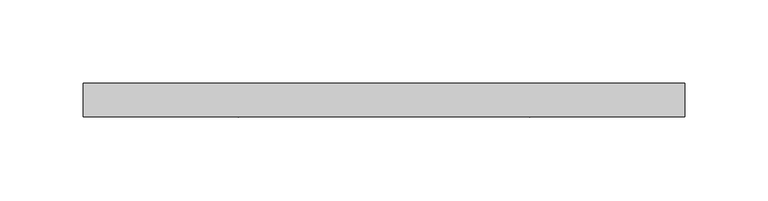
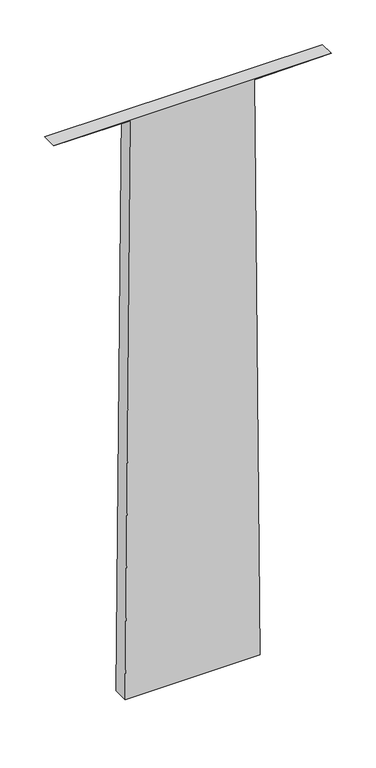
"""IFC4 building model written with IfcOpenShell, lengths in millimetres: plate geometry, 空系统嵌板 : 空."""

from ifc_helpers import new_model, si_unit, frame, origin, place, context, project, spatial, polyline, outline, extrude, source, transform, mapped, element, save


def plate_9638d80c(model_context):
    return source(origin(), model_context, "Body", "SweptSolid", [
        extrude(outline(polyline([(0.0, -87.1884082), (0.0, 87.1884082), (789.1697046, 80.0065796), (790.0797156, 180.0024389), (790.0797156, -180.0024389), (789.1697046, -80.0065796), (0.0, -87.1884082)])), frame((0.0, -10.0, 0.0), z_axis=(0.0, 1.0, 0.0), x_axis=(0.0, 0.0, 1.0)), (0.0, 0.0, 1.0), 20.0),
    ])


if __name__ == "__main__":
    model = new_model("IFC4")
    model_context = context("Model", 3, world=origin())
    ifc_project = project(units=[si_unit("LENGTHUNIT", "METRE", prefix="MILLI")], contexts=[model_context])
    site = spatial("IfcSite", under=ifc_project)
    building = spatial("IfcBuilding", under=site)
    placement = place(None, origin())
    plate_shape = plate_9638d80c(model_context)
    element("IfcPlate", 1, ObjectType="空系统嵌板 : 空", at=placement, inside=building, context=model_context, shape_type="MappedRepresentation", body=[
        mapped(plate_shape, transform((0.0, 0.0, 0.0), x_axis=(1.0, 0.0, 0.0), y_axis=(0.0, 1.0, 0.0), z_axis=(0.0, 0.0, 1.0))),
    ])
    save(model, "model.ifc")
